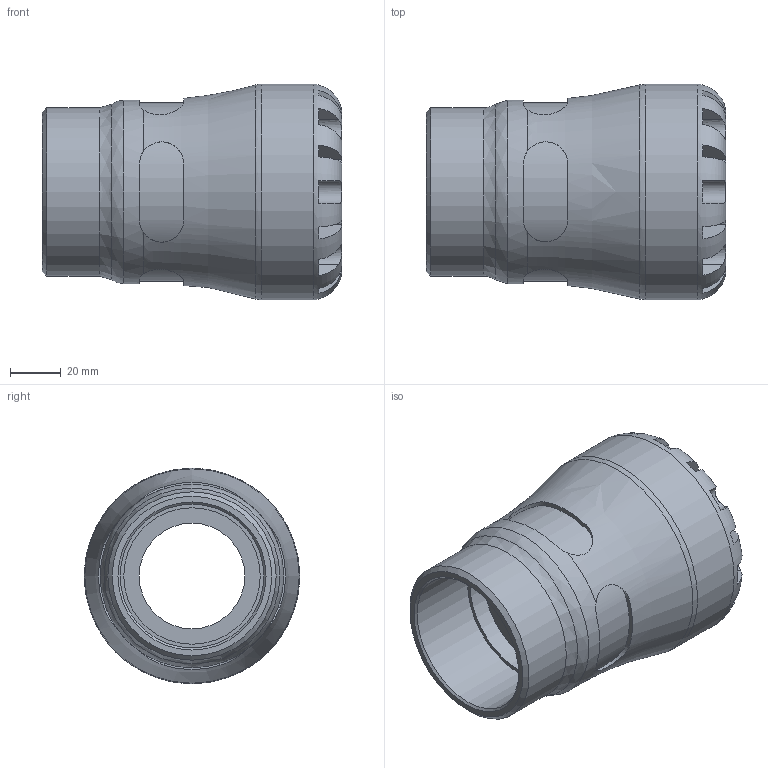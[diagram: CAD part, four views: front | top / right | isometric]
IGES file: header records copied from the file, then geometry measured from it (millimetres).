
Global section: file name: 100300050020_190300050020.ipt; native system: Autodesk Inventor 2015; preprocessor: unknown; author: KIM; date: 20170122.095000; units: millimetre
Bounding box: 118 x 85 x 85 mm (x, y, z)
Volume: 275366 mm3; surface area: 55223 mm2
Topology: 1 solids, 1 shells, 104 faces, 279 edges, 180 vertices
Faces by surface type: plane 61, revolution 27, cylinder 15, cone 1
Full cylindrical faces by diameter (mm): 66.3 x1, 72.25 x1, 85 x1
